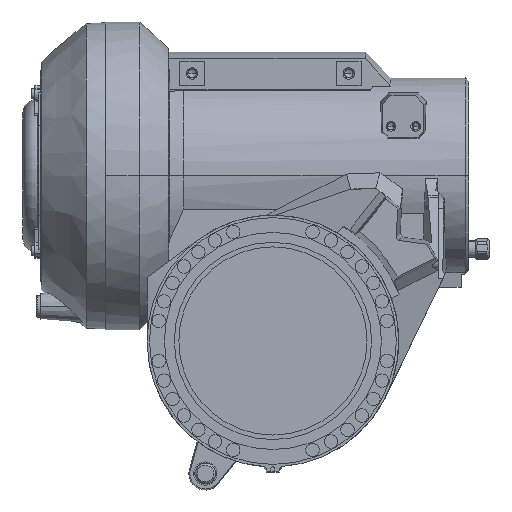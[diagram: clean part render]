
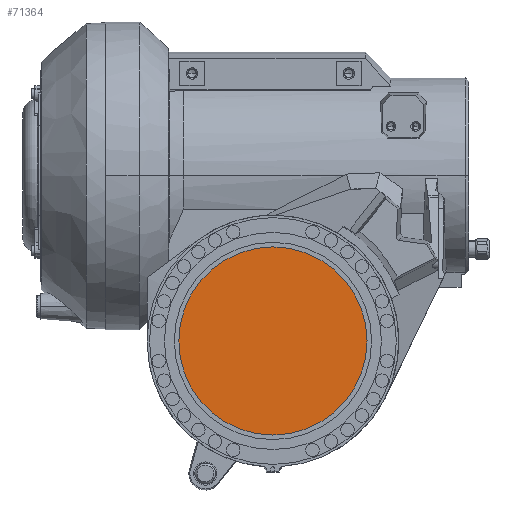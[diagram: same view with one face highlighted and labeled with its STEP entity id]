
A CAD part, front view. The second image highlights one B-rep face of the part: STEP entity #71364.
In plain terms, the highlighted planar face has unit normal (0, -1, 0).
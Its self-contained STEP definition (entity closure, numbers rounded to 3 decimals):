
#517 = DIRECTION ( 'NONE',  ( 0., 1., 0. ) ) ;
#7553 = EDGE_LOOP ( 'NONE', ( #46525, #29664 ) ) ;
#9521 = DIRECTION ( 'NONE',  ( -1., 0., 0. ) ) ;
#9965 = CIRCLE ( 'NONE', #39505, 114. ) ;
#11925 = VERTEX_POINT ( 'NONE', #19146 ) ;
#12770 = EDGE_CURVE ( 'NONE', #13046, #11925, #9965, .T. ) ;
#13046 = VERTEX_POINT ( 'NONE', #61855 ) ;
#14194 = CARTESIAN_POINT ( 'NONE',  ( 320., -262.2, 1815. ) ) ;
#16016 = CARTESIAN_POINT ( 'NONE',  ( 320., -262.2, 1701. ) ) ;
#19073 = DIRECTION ( 'NONE',  ( -1., 0., 0. ) ) ;
#19146 = CARTESIAN_POINT ( 'NONE',  ( 206., -262.2, 1815. ) ) ;
#20916 = PLANE ( 'NONE',  #41090 ) ;
#29664 = ORIENTED_EDGE ( 'NONE', *, *, #12770, .F. ) ;
#35581 = AXIS2_PLACEMENT_3D ( 'NONE', #14194, #517, #19073 ) ;
#39505 = AXIS2_PLACEMENT_3D ( 'NONE', #52608, #46947, #9521 ) ;
#40563 = DIRECTION ( 'NONE',  ( -1., 0., 0. ) ) ;
#41090 = AXIS2_PLACEMENT_3D ( 'NONE', #16016, #51855, #40563 ) ;
#46525 = ORIENTED_EDGE ( 'NONE', *, *, #46611, .F. ) ;
#46611 = EDGE_CURVE ( 'NONE', #11925, #13046, #70313, .T. ) ;
#46947 = DIRECTION ( 'NONE',  ( 0., 1., 0. ) ) ;
#51855 = DIRECTION ( 'NONE',  ( 0., 1., 0. ) ) ;
#52608 = CARTESIAN_POINT ( 'NONE',  ( 320., -262.2, 1815. ) ) ;
#58372 = FACE_OUTER_BOUND ( 'NONE', #7553, .T. ) ;
#61855 = CARTESIAN_POINT ( 'NONE',  ( 434., -262.2, 1815. ) ) ;
#70313 = CIRCLE ( 'NONE', #35581, 114. ) ;
#71364 = ADVANCED_FACE ( 'NONE', ( #58372 ), #20916, .F. ) ;
